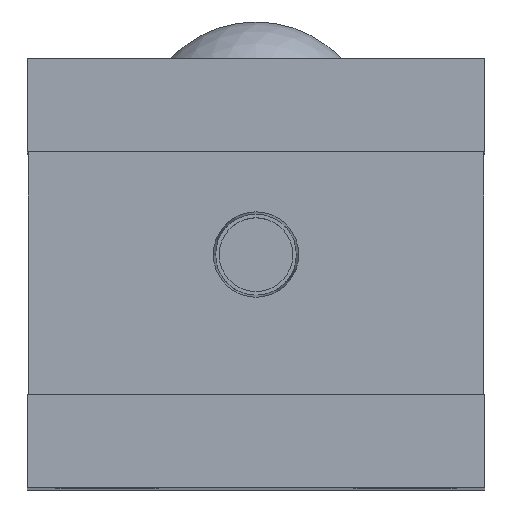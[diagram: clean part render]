
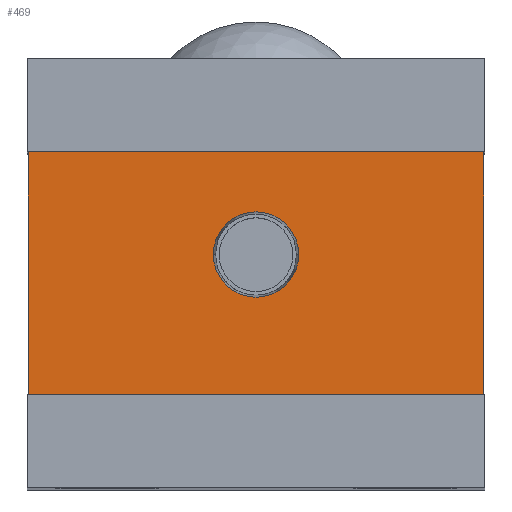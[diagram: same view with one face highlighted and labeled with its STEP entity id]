
A CAD part, top view. The second image highlights one B-rep face of the part: STEP entity #469.
In plain terms, the highlighted planar face has unit normal (0, 0, 1).
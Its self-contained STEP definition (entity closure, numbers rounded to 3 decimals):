
#30 = ORIENTED_EDGE ( 'NONE', *, *, #3212, .T. ) ;
#113 = FACE_OUTER_BOUND ( 'NONE', #2394, .T. ) ;
#158 = CARTESIAN_POINT ( 'NONE',  ( -4.574, 25., -0.2 ) ) ;
#221 = DIRECTION ( 'NONE',  ( -1., 0., 0. ) ) ;
#239 = CARTESIAN_POINT ( 'NONE',  ( 24.4, 36., -0.2 ) ) ;
#260 = DIRECTION ( 'NONE',  ( -1., 0., 0. ) ) ;
#263 = VERTEX_POINT ( 'NONE', #158 ) ;
#302 = LINE ( 'NONE', #513, #2055 ) ;
#429 = VERTEX_POINT ( 'NONE', #679 ) ;
#462 = LINE ( 'NONE', #3049, #3953 ) ;
#469 = ADVANCED_FACE ( 'NONE', ( #1049, #113 ), #3427, .F. ) ;
#513 = CARTESIAN_POINT ( 'NONE',  ( 24.4, 10., -0.2 ) ) ;
#570 = AXIS2_PLACEMENT_3D ( 'NONE', #2095, #4501, #2447 ) ;
#679 = CARTESIAN_POINT ( 'NONE',  ( 24.4, 36., -0.2 ) ) ;
#720 = VERTEX_POINT ( 'NONE', #3618 ) ;
#729 = AXIS2_PLACEMENT_3D ( 'NONE', #1280, #2655, #221 ) ;
#968 = CIRCLE ( 'NONE', #570, 4.574 ) ;
#1049 = FACE_BOUND ( 'NONE', #4332, .T. ) ;
#1092 = DIRECTION ( 'NONE',  ( 0., 0., 1. ) ) ;
#1161 = ORIENTED_EDGE ( 'NONE', *, *, #1911, .F. ) ;
#1280 = CARTESIAN_POINT ( 'NONE',  ( 0., 0., -0.2 ) ) ;
#1370 = VERTEX_POINT ( 'NONE', #3498 ) ;
#1661 = CARTESIAN_POINT ( 'NONE',  ( -24.4, 10., -0.2 ) ) ;
#1726 = EDGE_CURVE ( 'NONE', #429, #2719, #462, .T. ) ;
#1740 = ORIENTED_EDGE ( 'NONE', *, *, #4465, .T. ) ;
#1797 = ORIENTED_EDGE ( 'NONE', *, *, #3553, .T. ) ;
#1911 = EDGE_CURVE ( 'NONE', #1370, #263, #2262, .T. ) ;
#2055 = VECTOR ( 'NONE', #3985, 1000. ) ;
#2082 = CARTESIAN_POINT ( 'NONE',  ( 24.4, 10., -0.2 ) ) ;
#2095 = CARTESIAN_POINT ( 'NONE',  ( 0., 25., -0.2 ) ) ;
#2262 = CIRCLE ( 'NONE', #3743, 4.574 ) ;
#2263 = LINE ( 'NONE', #1661, #4002 ) ;
#2394 = EDGE_LOOP ( 'NONE', ( #4431, #1740, #1797, #30 ) ) ;
#2447 = DIRECTION ( 'NONE',  ( 1., 0., 0. ) ) ;
#2655 = DIRECTION ( 'NONE',  ( 0., 0., -1. ) ) ;
#2719 = VERTEX_POINT ( 'NONE', #4392 ) ;
#3034 = DIRECTION ( 'NONE',  ( 0., -1., 0. ) ) ;
#3049 = CARTESIAN_POINT ( 'NONE',  ( -24.4, 36., -0.2 ) ) ;
#3180 = CARTESIAN_POINT ( 'NONE',  ( 0., 25., -0.2 ) ) ;
#3212 = EDGE_CURVE ( 'NONE', #3374, #429, #3699, .T. ) ;
#3374 = VERTEX_POINT ( 'NONE', #2082 ) ;
#3393 = EDGE_CURVE ( 'NONE', #263, #1370, #968, .T. ) ;
#3395 = DIRECTION ( 'NONE',  ( 0., 1., 0. ) ) ;
#3427 = PLANE ( 'NONE',  #729 ) ;
#3469 = VECTOR ( 'NONE', #3395, 1000. ) ;
#3498 = CARTESIAN_POINT ( 'NONE',  ( 4.574, 25., -0.2 ) ) ;
#3529 = DIRECTION ( 'NONE',  ( 1., 0., 0. ) ) ;
#3553 = EDGE_CURVE ( 'NONE', #720, #3374, #302, .T. ) ;
#3618 = CARTESIAN_POINT ( 'NONE',  ( -24.4, 10., -0.2 ) ) ;
#3643 = ORIENTED_EDGE ( 'NONE', *, *, #3393, .F. ) ;
#3699 = LINE ( 'NONE', #239, #3469 ) ;
#3743 = AXIS2_PLACEMENT_3D ( 'NONE', #3180, #1092, #3529 ) ;
#3953 = VECTOR ( 'NONE', #260, 1000. ) ;
#3985 = DIRECTION ( 'NONE',  ( 1., 0., 0. ) ) ;
#4002 = VECTOR ( 'NONE', #3034, 1000. ) ;
#4332 = EDGE_LOOP ( 'NONE', ( #1161, #3643 ) ) ;
#4392 = CARTESIAN_POINT ( 'NONE',  ( -24.4, 36., -0.2 ) ) ;
#4431 = ORIENTED_EDGE ( 'NONE', *, *, #1726, .T. ) ;
#4465 = EDGE_CURVE ( 'NONE', #2719, #720, #2263, .T. ) ;
#4501 = DIRECTION ( 'NONE',  ( 0., 0., 1. ) ) ;
